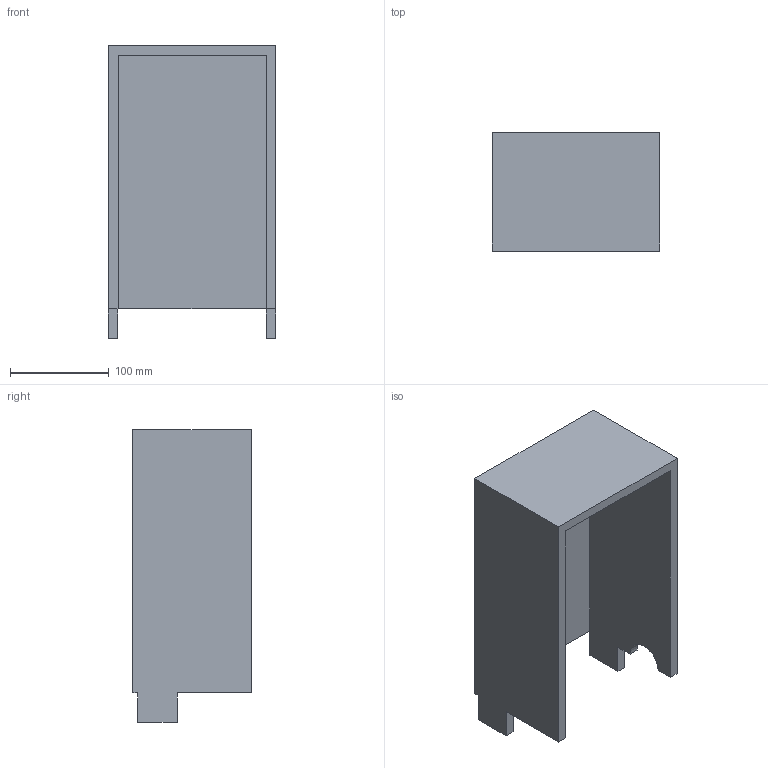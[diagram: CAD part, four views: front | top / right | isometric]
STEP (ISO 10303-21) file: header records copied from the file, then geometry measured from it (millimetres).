
FILE_DESCRIPTION(('HOOPS Exchange Step'),'2;1');
FILE_NAME('/private/var/mobile/Containers/Data/Application/DD97EE40-877A-4DB0-A56E-7A8C64E57733/tmp/export/temp_export','2025-11-06T20:57:39+08:00',('mobile'),('Shapr3D Limited'),'HOOPS Exchange 2025.5','Shapr3D','Authorized');
FILE_SCHEMA( ('AP242_MANAGED_MODEL_BASED_3D_ENGINEERING_MIM_LF {1 0 10303 442 1 1 4}') );
Length unit declared in the file: millimetre
Products named in the file (1): 实体  05
Bounding box: 170 x 120 x 296.58 mm (x, y, z)
Volume: 1032441.3 mm3; surface area: 259509.6 mm2
Topology: 1 solids, 1 shells, 22 faces, 57 edges, 37 vertices
Faces by surface type: plane 21, cylinder 1
Entity records: 695 total; most frequent: CARTESIAN_POINT 118, ORIENTED_EDGE 114, DIRECTION 107, EDGE_CURVE 57, VECTOR 55, LINE 55, VERTEX_POINT 37, AXIS2_PLACEMENT_3D 26
